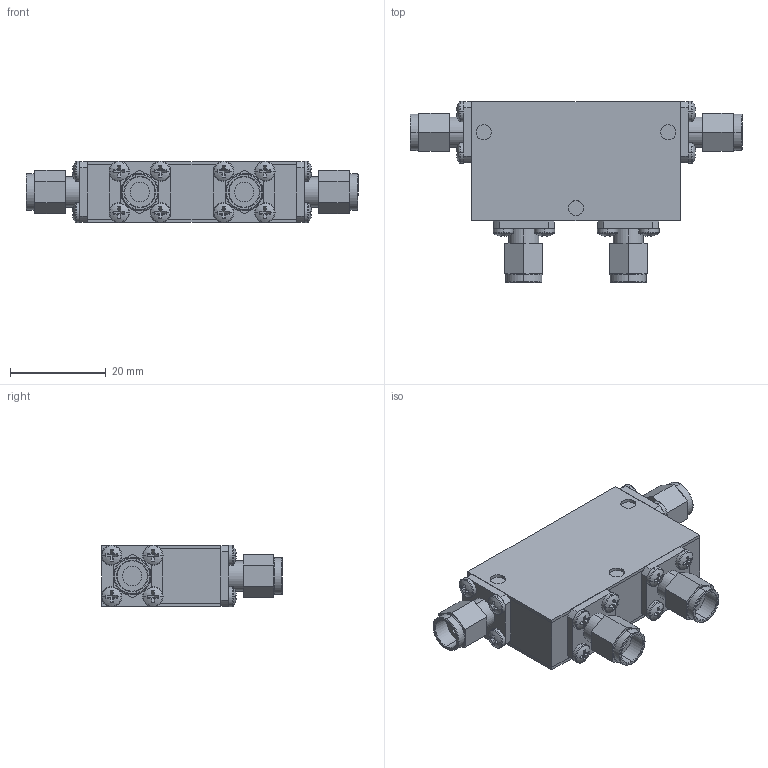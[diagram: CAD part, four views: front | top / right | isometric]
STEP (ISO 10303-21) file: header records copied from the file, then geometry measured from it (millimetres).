
FILE_DESCRIPTION (( 'STEP AP214' ), '1' );
FILE_NAME ('Package 19 Circ MMMM.step', '2021-12-01T20:59:10', ( '' ), ( '' ), 'SwSTEP 2.0', 'SolidWorks 2016', '' );
FILE_SCHEMA (( 'AUTOMOTIVE_DESIGN' ));
Length unit declared in the file: inch
Products named in the file (5): Package Size 19; Delta SMA-Male; pan cross head_ai_CR-PHMS 0.086-56x0.125x0.125-N; Package 19; Package 19 Circ MMMM
Assembly tree (22 placements, depth 2):
  Package 19 Circ MMMM
    Package 19
    pan cross head_ai_CR-PHMS 0.086-56x0.125x0.125-N  x16
    Delta SMA-Male  x4
    Package Size 19
Bounding box: 69.44 x 37.86 x 12.88 mm (x, y, z)
Volume: 16302.2 mm3; surface area: 13759.3 mm2
Topology: 22 solids, 22 shells, 584 faces, 1328 edges, 816 vertices
Faces by surface type: plane 340, cylinder 156, torus 56, sphere 32
Entity records: 3288 total; most frequent: DIRECTION 594, CARTESIAN_POINT 509, ORIENTED_EDGE 472, EDGE_CURVE 236, AXIS2_PLACEMENT_3D 235, VERTEX_POINT 150, LINE 124, EDGE_LOOP 124
